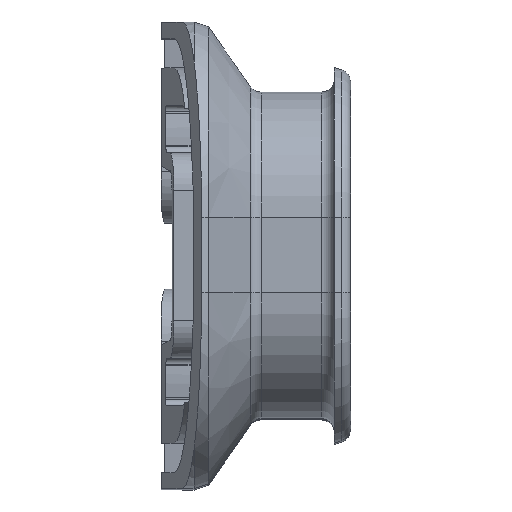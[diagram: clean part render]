
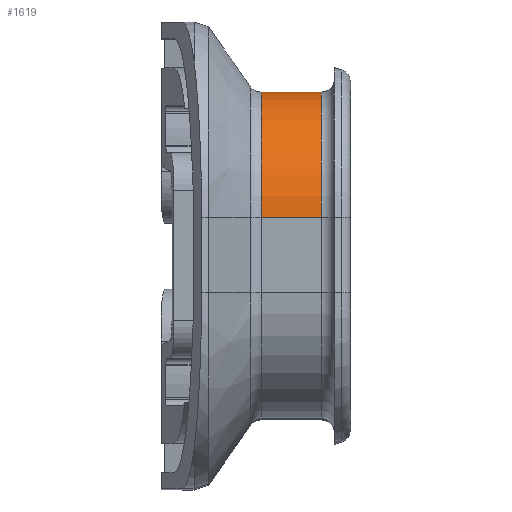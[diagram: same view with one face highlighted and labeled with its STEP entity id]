
A CAD part, top view. The second image highlights one B-rep face of the part: STEP entity #1619.
In plain terms, the highlighted cylindrical face has radius 19.264 mm (diameter 38.528 mm), a partial arc.
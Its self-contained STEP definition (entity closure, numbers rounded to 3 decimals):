
#36 = FACE_OUTER_BOUND ( 'NONE', #3945, .T. ) ;
#356 = CARTESIAN_POINT ( 'NONE',  ( 10.272, 5.75, 80.264 ) ) ;
#466 = CARTESIAN_POINT ( 'NONE',  ( 19.5, 5.75, 80.264 ) ) ;
#656 = CARTESIAN_POINT ( 'NONE',  ( 19.5, 5.75, 61. ) ) ;
#912 = CARTESIAN_POINT ( 'NONE',  ( 10.272, 25.014, 61. ) ) ;
#1585 = DIRECTION ( 'NONE',  ( -1., 0., 0. ) ) ;
#1619 = ADVANCED_FACE ( 'NONE', ( #36 ), #2329, .T. ) ;
#2106 = CARTESIAN_POINT ( 'NONE',  ( 10.272, 5.75, 80.264 ) ) ;
#2329 = CYLINDRICAL_SURFACE ( 'NONE', #6662, 19.264 ) ;
#2516 = EDGE_CURVE ( 'NONE', #6287, #6512, #6234, .T. ) ;
#2614 = EDGE_CURVE ( 'NONE', #6512, #2981, #6179, .T. ) ;
#2855 = ORIENTED_EDGE ( 'NONE', *, *, #6903, .F. ) ;
#2981 = VERTEX_POINT ( 'NONE', #4322 ) ;
#3030 = VECTOR ( 'NONE', #5130, 1000. ) ;
#3315 = CARTESIAN_POINT ( 'NONE',  ( 19.5, 25.014, 61. ) ) ;
#3504 = DIRECTION ( 'NONE',  ( 0., 0., 1. ) ) ;
#3945 = EDGE_LOOP ( 'NONE', ( #2855, #8302, #4278, #4010 ) ) ;
#3979 = VERTEX_POINT ( 'NONE', #356 ) ;
#4010 = ORIENTED_EDGE ( 'NONE', *, *, #2614, .T. ) ;
#4019 = AXIS2_PLACEMENT_3D ( 'NONE', #656, #6720, #3504 ) ;
#4278 = ORIENTED_EDGE ( 'NONE', *, *, #2516, .T. ) ;
#4322 = CARTESIAN_POINT ( 'NONE',  ( 10.272, 25.014, 61. ) ) ;
#5130 = DIRECTION ( 'NONE',  ( -1., 0., 0. ) ) ;
#5186 = DIRECTION ( 'NONE',  ( 0., 0., 1. ) ) ;
#5234 = CARTESIAN_POINT ( 'NONE',  ( 10.272, 5.75, 61. ) ) ;
#5697 = AXIS2_PLACEMENT_3D ( 'NONE', #5234, #7675, #5186 ) ;
#6179 = LINE ( 'NONE', #912, #9723 ) ;
#6234 = CIRCLE ( 'NONE', #4019, 19.264 ) ;
#6287 = VERTEX_POINT ( 'NONE', #466 ) ;
#6512 = VERTEX_POINT ( 'NONE', #3315 ) ;
#6662 = AXIS2_PLACEMENT_3D ( 'NONE', #8392, #1585, #6988 ) ;
#6720 = DIRECTION ( 'NONE',  ( -1., 0., 0. ) ) ;
#6903 = EDGE_CURVE ( 'NONE', #3979, #2981, #6975, .T. ) ;
#6975 = CIRCLE ( 'NONE', #5697, 19.264 ) ;
#6988 = DIRECTION ( 'NONE',  ( 0., 0., 1. ) ) ;
#7274 = EDGE_CURVE ( 'NONE', #6287, #3979, #8912, .T. ) ;
#7675 = DIRECTION ( 'NONE',  ( -1., 0., 0. ) ) ;
#8302 = ORIENTED_EDGE ( 'NONE', *, *, #7274, .F. ) ;
#8392 = CARTESIAN_POINT ( 'NONE',  ( 22.618, 5.75, 61. ) ) ;
#8912 = LINE ( 'NONE', #2106, #3030 ) ;
#9226 = DIRECTION ( 'NONE',  ( -1., 0., 0. ) ) ;
#9723 = VECTOR ( 'NONE', #9226, 1000. ) ;
